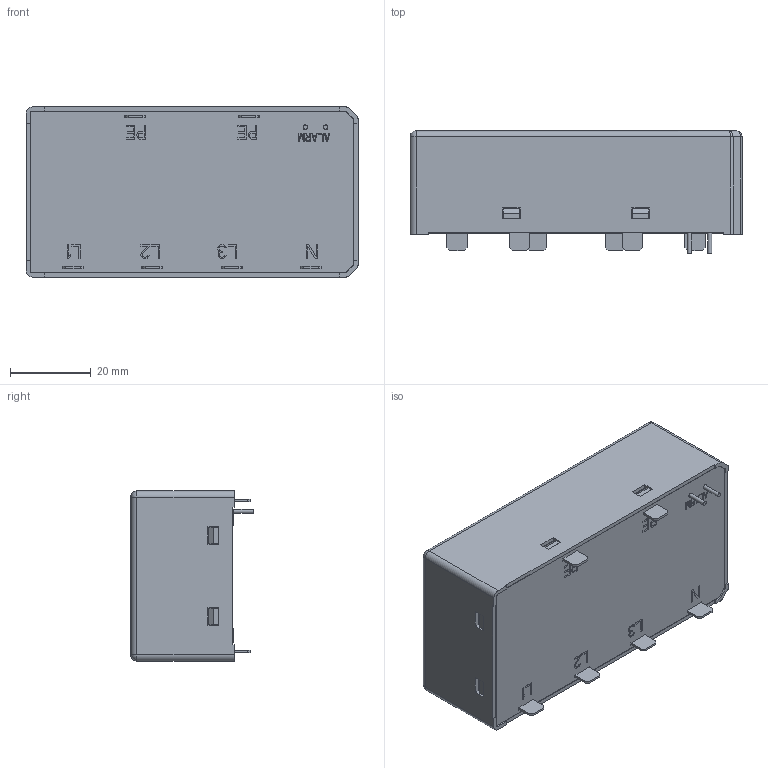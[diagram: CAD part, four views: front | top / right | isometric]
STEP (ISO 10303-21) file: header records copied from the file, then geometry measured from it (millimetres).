
FILE_DESCRIPTION(/* description */ ('Unknown'),/* implementation_level */ '2;1');
FILE_NAME(/* name */ 'SM20&30M230A404',/* time_stamp */ '2023-04-13T11:34:30+08:00',/* author */ ('Unknown'),/* organization */ ('Unknown'),/* preprocessor_version */ 'ST-DEVELOPER v16.7',/* originating_system */ 'Solid Edge',/* authorisation */ 'Unknown');
FILE_SCHEMA (('AUTOMOTIVE_DESIGN {1 0 10303 214 3 1 1}'));
Length unit declared in the file: millimetre
Products named in the file (8): sm20&30m-zong-20230301; PRT1000002145; PRT1000002144; PRT1000002134; ASM1000000553; PRT1000002125; SM20M-YINJIAO1-20200407_0; SM20M-YINJIAO1-20200407
Assembly tree (10 placements, depth 3):
  sm20&30m-zong-20230301
    PRT1000002145
    PRT1000002144
    PRT1000002134
    ASM1000000553
      PRT1000002125  x2
    SM20M-YINJIAO1-20200407_0
    SM20M-YINJIAO1-20200407  x3
Bounding box: 82 x 30.2 x 42 mm (x, y, z)
Volume: 15753 mm3; surface area: 34987.2 mm2
Topology: 9 solids, 9 shells, 822 faces, 2268 edges, 1499 vertices
Faces by surface type: plane 715, cylinder 87, sphere 8, bspline 5, torus 5, cone 2
Full cylindrical faces by diameter (mm): 1 x4, 1.15 x2, 1.5 x2, 1.6 x8
Entity records: 24720 total; most frequent: CARTESIAN_POINT 4336, ORIENTED_EDGE 4046, DIRECTION 3646, EDGE_CURVE 2023, LINE 1878, VECTOR 1878, VERTEX_POINT 1342, AXIS2_PLACEMENT_3D 884
